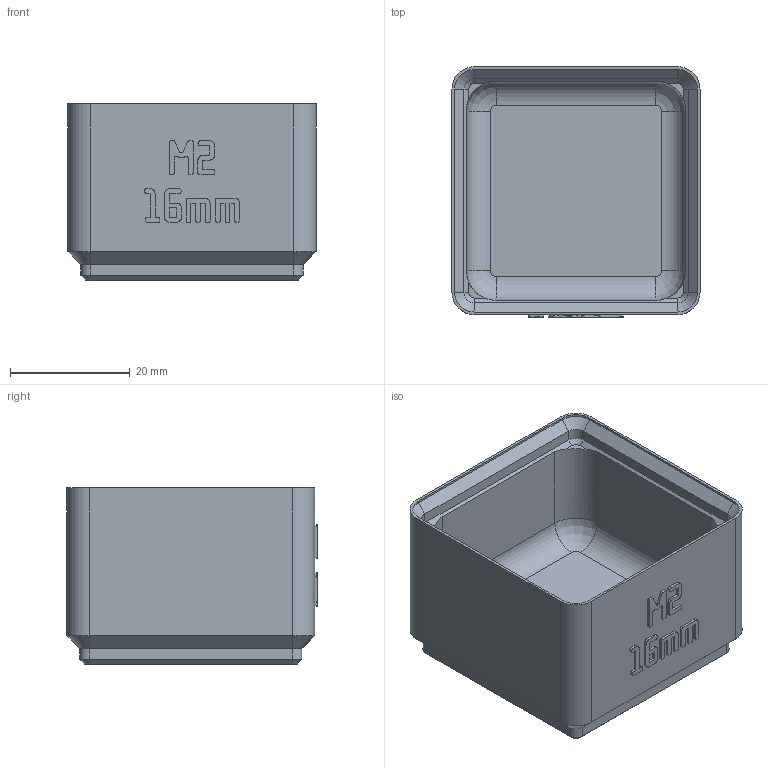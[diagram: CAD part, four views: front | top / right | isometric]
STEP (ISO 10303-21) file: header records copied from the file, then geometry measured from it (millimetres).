
FILE_DESCRIPTION(('Open CASCADE Model'),'2;1');
FILE_NAME('Open CASCADE Shape Model','2026-11-03T10:23:18',('Author'),( 'Open CASCADE'),'Open CASCADE STEP processor 8.0','build123d', 'Unknown');
FILE_SCHEMA(('AUTOMOTIVE_DESIGN { 1 0 10303 214 1 1 1 1 }'));
Length unit declared in the file: millimetre
Products named in the file (1): COMPOUND
Bounding box: 41.5 x 41.9 x 29.5 mm (x, y, z)
Volume: 18939.4 mm3; surface area: 10645.5 mm2
Topology: 1 solids, 1 shells, 689 faces, 1981 edges, 1302 vertices
Faces by surface type: plane 645, cylinder 24, cone 16, revolution 4
Entity records: 46560 total; most frequent: CARTESIAN_POINT 9481, DIRECTION 5981, LINE 4449, VECTOR 4449, ORIENTED_EDGE 3962, PCURVE 3962, DEFINITIONAL_REPRESENTATION 3962, EDGE_CURVE 1981
